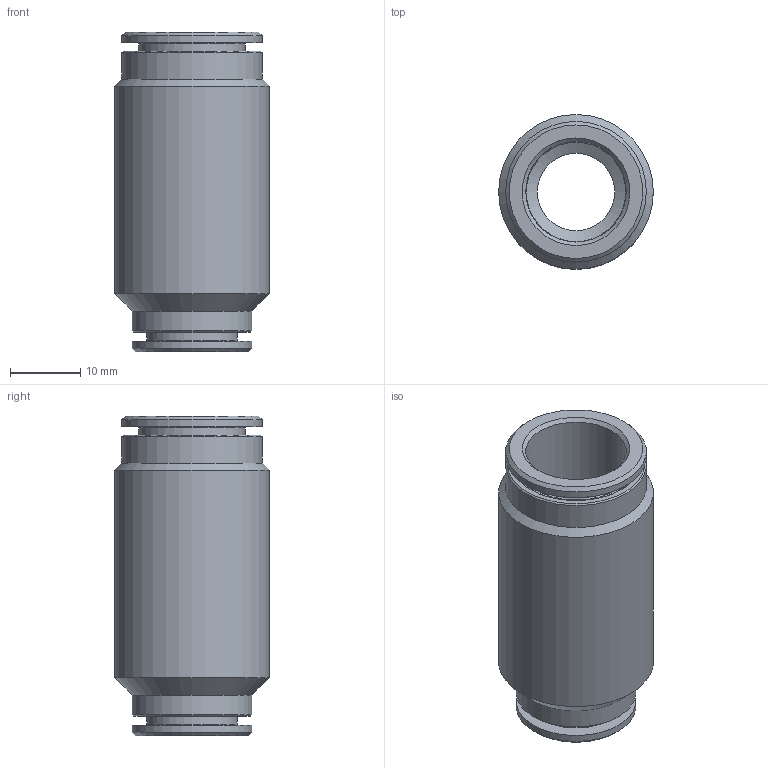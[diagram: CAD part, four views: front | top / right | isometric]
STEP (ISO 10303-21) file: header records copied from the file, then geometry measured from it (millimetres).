
FILE_DESCRIPTION(('Bauteilbeschreibung','HiCAD-Model','HiCAD-STEP-TRANSLATION','Bauteilbeschreibung'),'2;1');
FILE_NAME('B:/ABGLEICH/ZEICHNUNGEN/STEP FÜR INTERNET/STEP/200312_IPSO_03_14_12.STP','2011-07-19T16:57:56+00:00',('Konstrukteur'),('Konstrukteur Firma GmbH'),' HiCAD neXt 2008, Step 3.1.1401.2J ','HiCAD neXt 2008','confidential');
FILE_SCHEMA(('AUTOMOTIVE_DESIGN { 1 2 10303 214 0 1 1 1 }'));
Length unit declared in the file: millimetre
Products named in the file (4): A00312_IPSO_03_14_12; DR12_5; DR14_5; R200312
Assembly tree (3 placements, depth 2):
  A00312_IPSO_03_14_12
    DR12_5
    DR14_5
    R200312
Bounding box: 22 x 22 x 45.5 mm (x, y, z)
Volume: 8128.4 mm3; surface area: 7931.2 mm2
Topology: 3 solids, 3 shells, 60 faces, 115 edges, 66 vertices
Faces by surface type: cone 23, cylinder 20, plane 11, torus 6
Full cylindrical faces by diameter (mm): 11 x1, 12.15 x1, 12.25 x1, 12.9 x1, 14.15 x1, 14.3 x1, 14.5 x1, 14.7 x1, 15.1 x1, 15.2 x2, 16.2 x1, 16.5 x1, 17 x2, 17.3 x1, 18.1 x1, 20 x2, 22 x1
Entity records: 1621 total; most frequent: DIRECTION 252, CARTESIAN_POINT 186, AXIS2_PLACEMENT_3D 126, EDGE_LOOP 120, ORIENTED_EDGE 120, COLOUR_RGB 63, PRESENTATION_STYLE_ASSIGNMENT 63, ADVANCED_FACE 60
